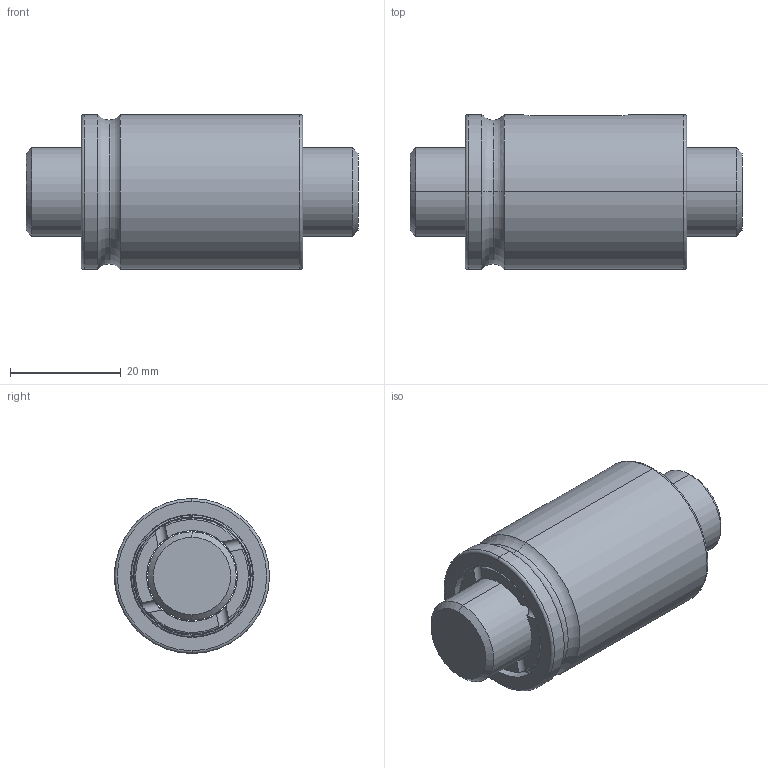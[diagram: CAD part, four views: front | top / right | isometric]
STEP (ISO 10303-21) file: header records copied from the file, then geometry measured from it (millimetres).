
FILE_DESCRIPTION (( 'STEP AP203' ), '1' );
FILE_NAME ('SCIR01602T3-C.STEP', '2020-06-17T07:17:15', ( '' ), ( '' ), 'SwSTEP 2.0', 'SolidWorks 2013', '' );
FILE_SCHEMA (( 'CONFIG_CONTROL_DESIGN' ));
Length unit declared in the file: millimetre
Products named in the file (1): SCIR01602T3-C
Bounding box: 60 x 28 x 28 mm (x, y, z)
Volume: 27192.7 mm3; surface area: 11080.3 mm2
Topology: 2 solids, 2 shells, 93 faces, 225 edges, 138 vertices
Faces by surface type: cylinder 42, torus 26, plane 21, cone 4
Entity records: 3191 total; most frequent: CARTESIAN_POINT 925, DIRECTION 486, ORIENTED_EDGE 450, EDGE_CURVE 225, AXIS2_PLACEMENT_3D 215, VERTEX_POINT 138, CIRCLE 121, EDGE_LOOP 101
